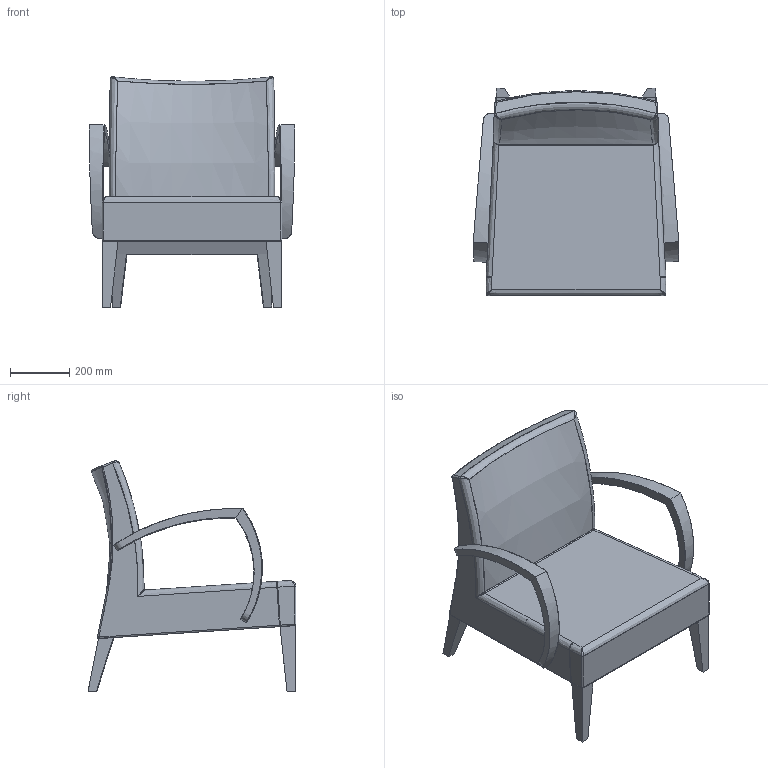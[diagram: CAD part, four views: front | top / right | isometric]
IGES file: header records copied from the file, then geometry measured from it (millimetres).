
Start section: SolidWorks IGES file using analytic representation for surfaces
Global section: file name: C:\Users\Adao\Documents\Trab Adao\Desenho técnico PRODUÇÃO\J M S\CASSIS\POLTRONAS\M290\M-290 M292 (3D)\POLTRONA CASSIS M-292.IGS; native system: SolidWorks 2012; preprocessor: SolidWorks 2012; author: Adao; date: 121220.095702; units: millimetre
Bounding box: 692.2 x 699.9 x 775.78 mm (x, y, z)
Surface area: 2002998.7 mm2 (no closed solid volume)
Topology: 0 solids, 0 shells, 135 faces, 1857 edges, 1849 vertices
Faces by surface type: bspline 87, revolution 48
